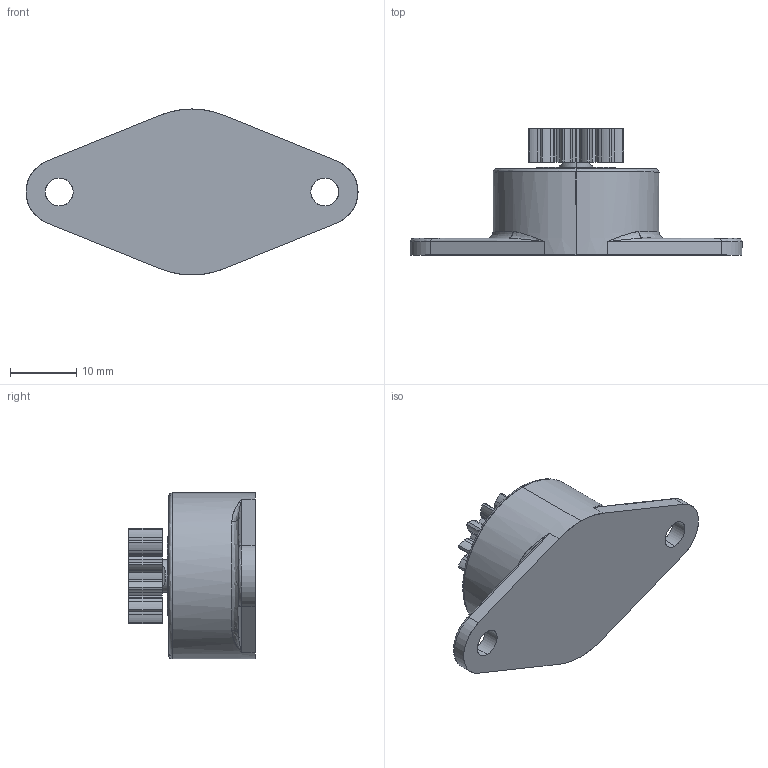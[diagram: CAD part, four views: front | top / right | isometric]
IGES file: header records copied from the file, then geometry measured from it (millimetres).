
Start section: SolidWorks IGES file using analytic representation for surfaces
Global section: file name: Z:\7-3D図面\02.3Dデータ(提出用)\IGS\R\FRT-D3(G1).IGS; native system: SolidWorks 2015; preprocessor: SolidWorks 2015; author: flgijutsu; date: 150708.173914; units: millimetre
Bounding box: 50 x 19 x 25 mm (x, y, z)
Surface area: 3364.6 mm2 (no closed solid volume)
Topology: 0 solids, 0 shells, 184 faces, 1734 edges, 1730 vertices
Faces by surface type: revolution 127, bspline 57
